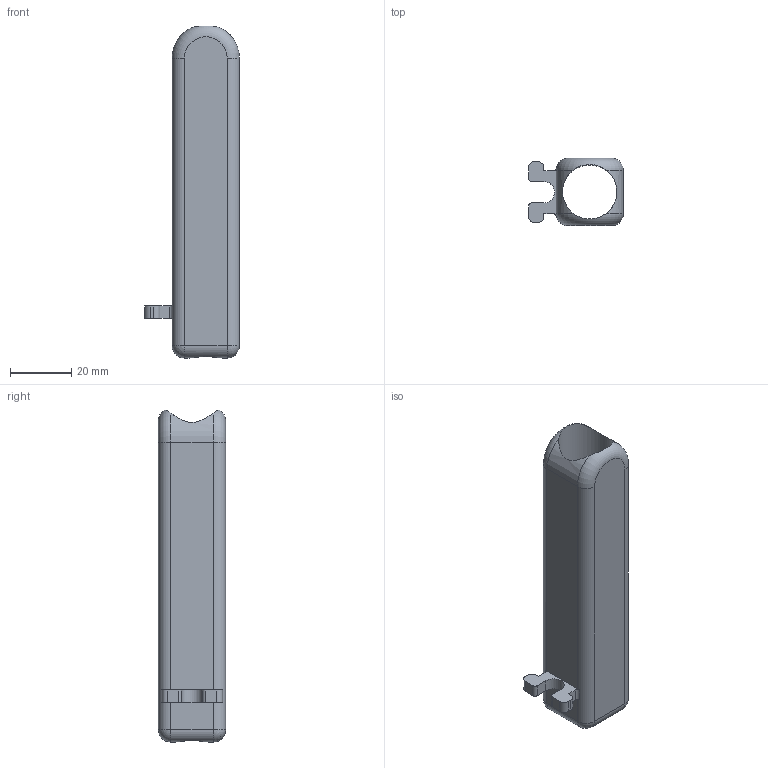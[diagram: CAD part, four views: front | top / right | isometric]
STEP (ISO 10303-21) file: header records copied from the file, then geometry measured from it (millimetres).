
FILE_DESCRIPTION(/* description */ (''),/* implementation_level */ '2;1');
FILE_NAME(/* name */ 'C:/Users/Owner/Desktop/K-CAD Songbird PM4 Centerfire/STEP/Barrels/Barrel Type 3/Barrel Type 3 0.7 inch ID.step',/* time_stamp */ '2020-12-05T21:29:14-05:00',/* author */ (''),/* organization */ (''),/* preprocessor_version */ 'ST-DEVELOPER v18.1',/* originating_system */ 'Autodesk Translation Framework v9.3.0.1241',/* authorisation */ '');
FILE_SCHEMA (('AUTOMOTIVE_DESIGN { 1 0 10303 214 3 1 1 }'));
Length unit declared in the file: inch
Products named in the file (1): Barrel Type 3 0.7 inch ID
Bounding box: 31 x 22 x 108.52 mm (x, y, z)
Volume: 23376.1 mm3; surface area: 15067.8 mm2
Topology: 1 solids, 1 shells, 47 faces, 128 edges, 80 vertices
Faces by surface type: plane 21, cylinder 20, sphere 4, torus 2
Full cylindrical faces by diameter (mm): 17.78 x1
Entity records: 1611 total; most frequent: CARTESIAN_POINT 361, DIRECTION 263, ORIENTED_EDGE 254, EDGE_CURVE 127, AXIS2_PLACEMENT_3D 98, VERTEX_POINT 80, LINE 67, VECTOR 67
